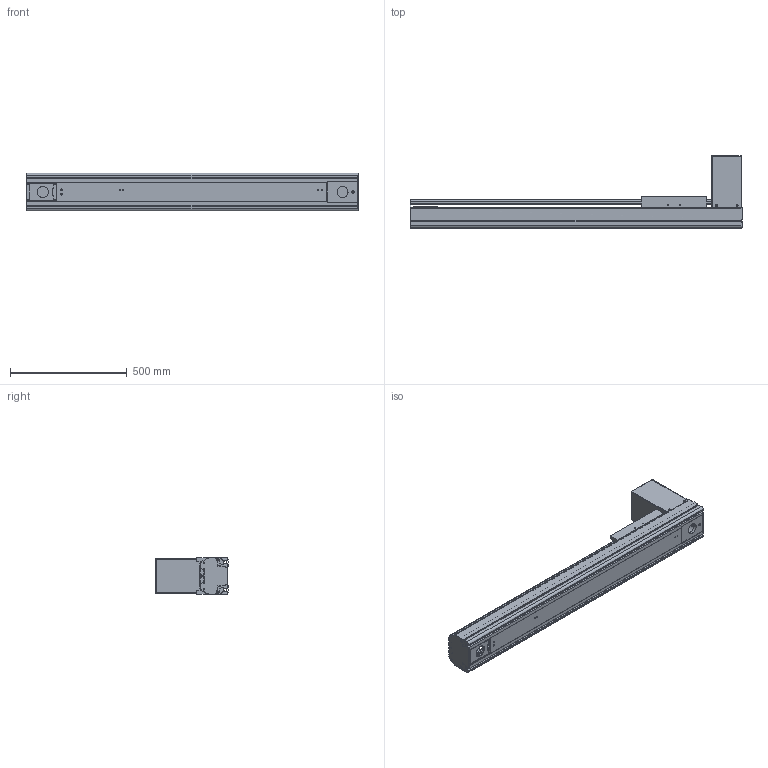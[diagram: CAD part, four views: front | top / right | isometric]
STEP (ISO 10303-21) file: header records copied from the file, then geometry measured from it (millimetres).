
FILE_DESCRIPTION((''),'2;1');
FILE_NAME('BE50G-BT-L19N-85_IGS_PRT','2017-06-18T',(' '),(''),'PRO/ENGINEER BY PARAMETRIC TECHNOLOGY CORPORATION, 2015030','PRO/ENGINEER BY PARAMETRIC TECHNOLOGY CORPORATION, 2015030','');
FILE_SCHEMA(('CONFIG_CONTROL_DESIGN'));
Products named in the file (1): BE50G-BT-L19N-85_IGS_PRT
Bounding box: 1420 x 309 x 160 mm (x, y, z)
Volume: 7394972.9 mm3; surface area: 2751317.9 mm2
Topology: 2 solids, 141 shells, 1882 faces, 5206 edges, 3433 vertices
Faces by surface type: cylinder 923, plane 786, cone 130, sphere 23, torus 20
Entity records: 62323 total; most frequent: CARTESIAN_POINT 13557, DIRECTION 10300, ORIENTED_EDGE 9760, EDGE_CURVE 5130, AXIS2_PLACEMENT_3D 3838, VERTEX_POINT 3432, VECTOR 2624, LINE 2624
